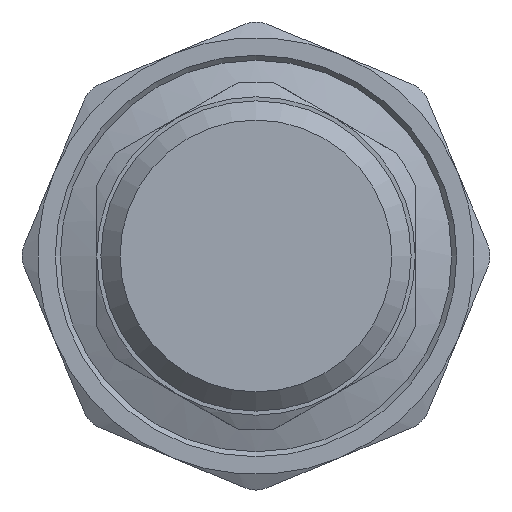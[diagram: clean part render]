
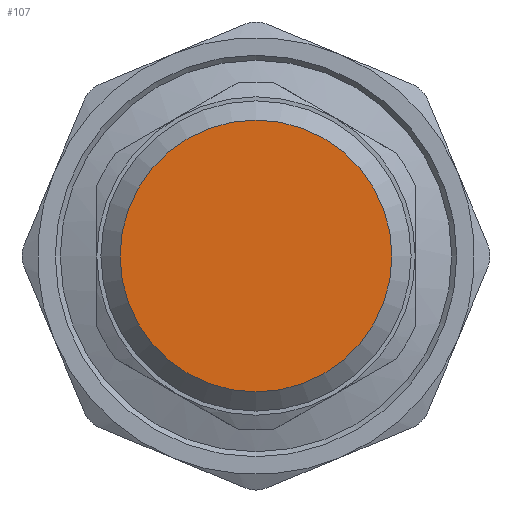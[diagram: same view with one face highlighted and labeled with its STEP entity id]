
A CAD part, front view. The second image highlights one B-rep face of the part: STEP entity #107.
In plain terms, the highlighted planar face has unit normal (0, -1, 0).
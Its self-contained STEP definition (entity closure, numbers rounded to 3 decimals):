
#107=ADVANCED_FACE('',(#573),#575,.F.);
#573=FACE_BOUND('',#574,.T.);
#574=EDGE_LOOP('',(#859));
#575=PLANE('',#576);
#576=AXIS2_PLACEMENT_3D('',#577,#578,#579);
#577=CARTESIAN_POINT('',(0.,0.,0.));
#578=DIRECTION('',(0.,1.,0.));
#579=DIRECTION('',(-1.,0.,0.));
#859=ORIENTED_EDGE('',*,*,#999,.F.);
#999=EDGE_CURVE('',#1229,#1229,#1230,.T.);
#1229=VERTEX_POINT('',#2999);
#1230=CIRCLE('',#3000,9.178);
#2999=CARTESIAN_POINT('',(-9.178,0.,0.));
#3000=AXIS2_PLACEMENT_3D('',#3001,#3002,#3003);
#3001=CARTESIAN_POINT('',(0.,0.,0.));
#3002=DIRECTION('',(0.,1.,0.));
#3003=DIRECTION('',(-1.,0.,0.));
